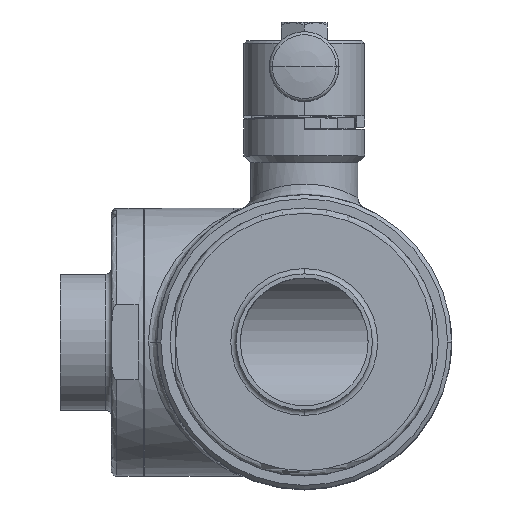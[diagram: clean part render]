
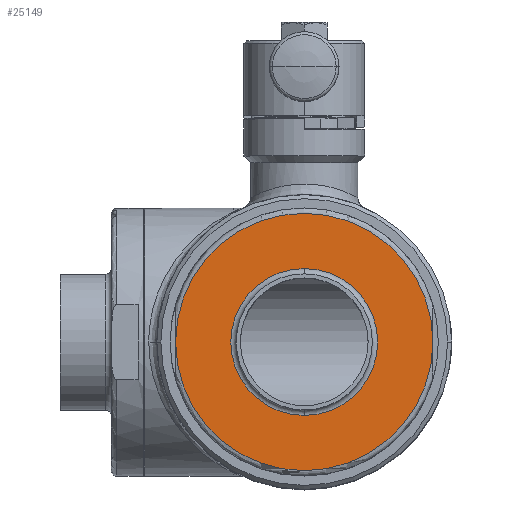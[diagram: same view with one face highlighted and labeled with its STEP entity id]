
A CAD part, top view. The second image highlights one B-rep face of the part: STEP entity #25149.
In plain terms, the highlighted planar face has unit normal (0, 0, 1).
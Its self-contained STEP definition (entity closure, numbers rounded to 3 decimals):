
#4608=CARTESIAN_POINT('',(0.,0.,72.));
#4609=DIRECTION('',(0.,0.,-1.));
#4610=DIRECTION('',(0.,-1.,0.));
#4611=AXIS2_PLACEMENT_3D('',#4608,#4609,#4610);
#4640=CARTESIAN_POINT('',(0.,0.,72.));
#4641=DIRECTION('',(0.,0.,1.));
#4642=DIRECTION('',(0.,-1.,0.));
#4643=AXIS2_PLACEMENT_3D('',#4640,#4641,#4642);
#4656=CARTESIAN_POINT('',(0.,0.,72.));
#4657=DIRECTION('',(0.,0.,1.));
#4658=DIRECTION('',(-1.,0.,0.));
#4659=AXIS2_PLACEMENT_3D('',#4656,#4657,#4658);
#4691=CARTESIAN_POINT('',(48.,0.,72.));
#4857=CARTESIAN_POINT('',(0.,0.,72.));
#4858=DIRECTION('',(0.,0.,1.));
#4859=DIRECTION('',(1.,0.,0.));
#4860=AXIS2_PLACEMENT_3D('',#4857,#4858,#4859);
#4892=CARTESIAN_POINT('',(-48.,0.,72.));
#20747=VERTEX_POINT('',#4691);
#20748=VERTEX_POINT('',#4892);
#20753=CARTESIAN_POINT('',(0.,-27.4,72.));
#20754=CARTESIAN_POINT('',(0.,27.4,72.));
#20755=VERTEX_POINT('',#20753);
#20756=VERTEX_POINT('',#20754);
#25133=CARTESIAN_POINT('',(0.,0.,72.));
#25134=DIRECTION('',(0.,0.,1.));
#25135=DIRECTION('',(0.,1.,0.));
#25136=AXIS2_PLACEMENT_3D('',#25133,#25134,#25135);
#25137=PLANE('',#25136);
#25139=ORIENTED_EDGE('',*,*,#25138,.F.);
#25141=ORIENTED_EDGE('',*,*,#25140,.F.);
#25142=EDGE_LOOP('',(#25139,#25141));
#25143=FACE_OUTER_BOUND('',#25142,.F.);
#25144=ORIENTED_EDGE('',*,*,#25123,.F.);
#25146=ORIENTED_EDGE('',*,*,#25145,.T.);
#25147=EDGE_LOOP('',(#25144,#25146));
#25148=FACE_BOUND('',#25147,.F.);
#25149=ADVANCED_FACE('',(#25143,#25148),#25137,.T.);
#4612=CIRCLE('',#4611,27.4);
#4644=CIRCLE('',#4643,27.4);
#4660=CIRCLE('',#4659,48.);
#4861=CIRCLE('',#4860,48.);
#25123=EDGE_CURVE('',#20755,#20756,#4612,.T.);
#25138=EDGE_CURVE('',#20748,#20747,#4660,.T.);
#25140=EDGE_CURVE('',#20747,#20748,#4861,.T.);
#25145=EDGE_CURVE('',#20755,#20756,#4644,.T.);
